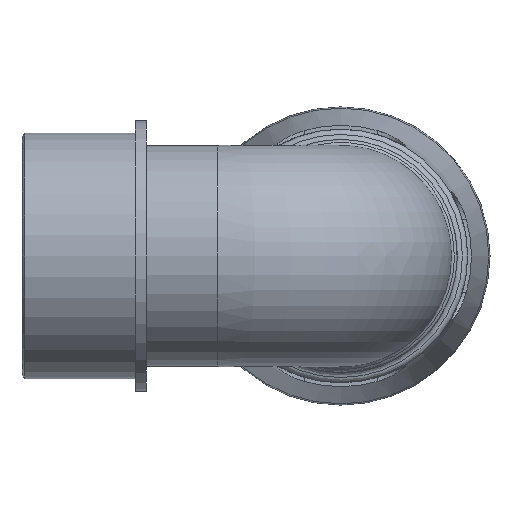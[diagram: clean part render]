
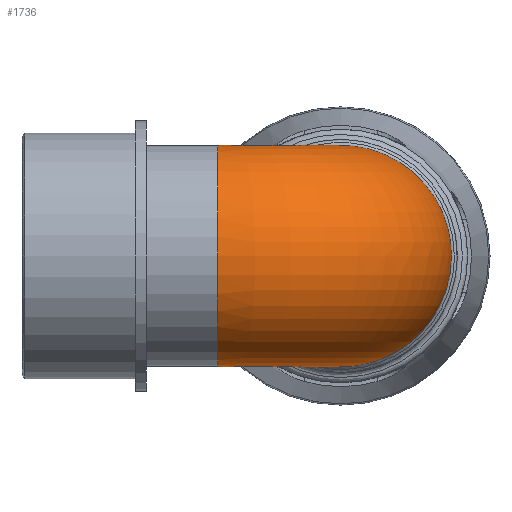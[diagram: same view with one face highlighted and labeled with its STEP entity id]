
A CAD part, left-side view. The second image highlights one B-rep face of the part: STEP entity #1736.
In plain terms, the highlighted toroidal (fillet/blend) face has major radius 23.935 mm and minor radius 21.511 mm.
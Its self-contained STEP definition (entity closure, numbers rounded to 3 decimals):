
#240=TOROIDAL_SURFACE('',#1855,23.935,21.511);
#250=FACE_BOUND('',#432,.T.);
#316=FACE_OUTER_BOUND('',#431,.T.);
#431=EDGE_LOOP('',(#1151,#1152));
#432=EDGE_LOOP('',(#1153));
#553=B_SPLINE_CURVE_WITH_KNOTS('',3,(#2652,#2653,#2654,#2655,#2656,#2657,
#2658,#2659,#2660,#2661,#2662,#2663,#2664,#2665),.UNSPECIFIED.,.F.,.F.,
(4,1,1,1,1,1,1,1,1,1,1,4),(-28.427,-27.411,-26.904,
-26.396,-25.381,-24.366,-23.35,
-22.843,-22.335,-21.997,-21.658,
-21.321),.UNSPECIFIED.);
#554=B_SPLINE_CURVE_WITH_KNOTS('',3,(#2666,#2667,#2668,#2669,#2670,#2671,
#2672,#2673,#2674,#2675,#2676,#2677,#2678,#2679,#2680,#2681,#2682),
 .UNSPECIFIED.,.F.,.F.,(4,1,1,1,1,1,1,1,1,1,1,3,4),(-21.321,-21.32,
-20.981,-20.643,-20.305,-19.628,
-18.274,-17.259,-16.244,-15.228,
-14.721,-14.213,-14.213),.UNSPECIFIED.);
#629=CIRCLE('',#1850,21.511);
#719=VERTEX_POINT('',#2649);
#720=VERTEX_POINT('',#2651);
#728=VERTEX_POINT('',#2824);
#882=EDGE_CURVE('',#719,#720,#553,.T.);
#883=EDGE_CURVE('',#720,#719,#554,.T.);
#893=EDGE_CURVE('',#728,#728,#629,.T.);
#1151=ORIENTED_EDGE('',*,*,#882,.F.);
#1152=ORIENTED_EDGE('',*,*,#883,.F.);
#1153=ORIENTED_EDGE('',*,*,#893,.T.);
#1736=ADVANCED_FACE('',(#316,#250),#240,.T.);
#1850=AXIS2_PLACEMENT_3D('',#2825,#2065,#2066);
#1855=AXIS2_PLACEMENT_3D('',#2833,#2075,#2076);
#2065=DIRECTION('center_axis',(0.,-1.,0.));
#2066=DIRECTION('ref_axis',(-1.,0.,0.));
#2075=DIRECTION('center_axis',(0.,0.,1.));
#2076=DIRECTION('ref_axis',(1.,0.,0.));
#2649=CARTESIAN_POINT('',(22.648,-21.493,-0.007));
#2651=CARTESIAN_POINT('',(22.074,22.383,-0.007));
#2652=CARTESIAN_POINT('Ctrl Pts',(22.649,-21.494,-0.007));
#2653=CARTESIAN_POINT('Ctrl Pts',(22.649,-21.493,-3.234));
#2654=CARTESIAN_POINT('Ctrl Pts',(22.648,-20.381,-8.063));
#2655=CARTESIAN_POINT('Ctrl Pts',(22.646,-16.919,-13.552));
#2656=CARTESIAN_POINT('Ctrl Pts',(22.643,-12.31,-18.148));
#2657=CARTESIAN_POINT('Ctrl Pts',(22.636,-4.829,-21.715));
#2658=CARTESIAN_POINT('Ctrl Pts',(22.617,5.116,-21.665));
#2659=CARTESIAN_POINT('Ctrl Pts',(22.582,12.561,-18.032));
#2660=CARTESIAN_POINT('Ctrl Pts',(22.508,17.164,-13.437));
#2661=CARTESIAN_POINT('Ctrl Pts',(22.412,19.527,-9.801));
#2662=CARTESIAN_POINT('Ctrl Pts',(22.269,21.065,-6.325));
#2663=CARTESIAN_POINT('Ctrl Pts',(22.12,22.058,-3.212));
#2664=CARTESIAN_POINT('Ctrl Pts',(22.074,22.383,-1.075));
#2665=CARTESIAN_POINT('Ctrl Pts',(22.074,22.384,-0.007));
#2666=CARTESIAN_POINT('Ctrl Pts',(22.073,22.385,-0.007));
#2667=CARTESIAN_POINT('Ctrl Pts',(22.073,22.385,-0.005));
#2668=CARTESIAN_POINT('Ctrl Pts',(22.073,22.386,1.067));
#2669=CARTESIAN_POINT('Ctrl Pts',(22.118,22.061,3.21));
#2670=CARTESIAN_POINT('Ctrl Pts',(22.267,21.064,6.331));
#2671=CARTESIAN_POINT('Ctrl Pts',(22.432,19.307,10.286));
#2672=CARTESIAN_POINT('Ctrl Pts',(22.572,14.978,16.556));
#2673=CARTESIAN_POINT('Ctrl Pts',(22.612,6.242,21.666));
#2674=CARTESIAN_POINT('Ctrl Pts',(22.635,-4.817,21.713));
#2675=CARTESIAN_POINT('Ctrl Pts',(22.642,-13.792,17.447));
#2676=CARTESIAN_POINT('Ctrl Pts',(22.646,-18.98,10.978));
#2677=CARTESIAN_POINT('Ctrl Pts',(22.647,-21.125,4.837));
#2678=CARTESIAN_POINT('Ctrl Pts',(22.648,-21.495,1.607));
#2679=CARTESIAN_POINT('Ctrl Pts',(22.648,-21.494,-0.007));
#2680=CARTESIAN_POINT('Ctrl Pts',(22.648,-21.494,-0.007));
#2681=CARTESIAN_POINT('Ctrl Pts',(22.648,-21.494,-0.007));
#2682=CARTESIAN_POINT('Ctrl Pts',(22.648,-21.494,-0.007));
#2824=CARTESIAN_POINT('',(21.511,23.935,0.));
#2825=CARTESIAN_POINT('Origin',(0.,23.935,0.));
#2833=CARTESIAN_POINT('Origin',(23.935,23.935,0.));
